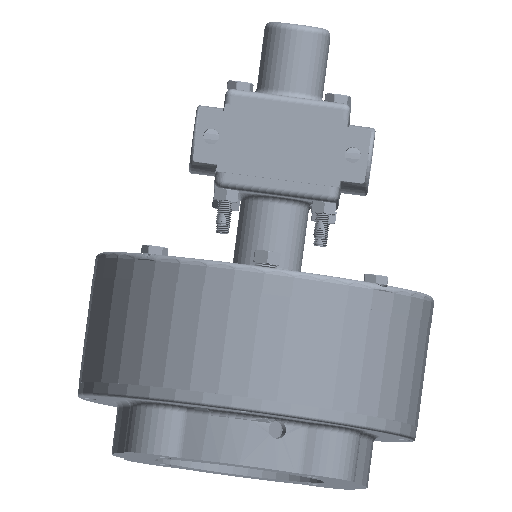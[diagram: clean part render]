
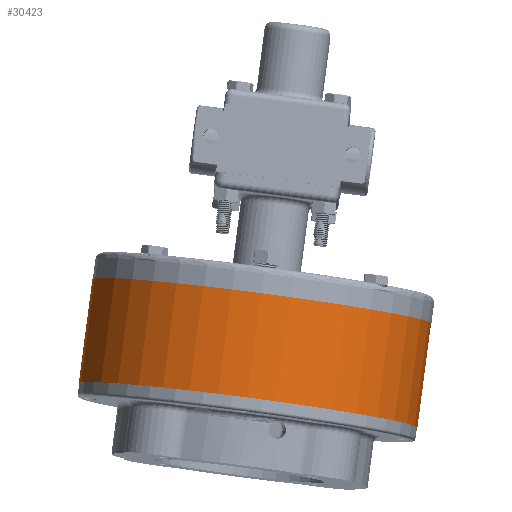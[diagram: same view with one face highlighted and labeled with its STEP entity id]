
A CAD part, front view. The second image highlights one B-rep face of the part: STEP entity #30423.
In plain terms, the highlighted cylindrical face has radius 79.756 mm (diameter 159.512 mm), a partial arc.
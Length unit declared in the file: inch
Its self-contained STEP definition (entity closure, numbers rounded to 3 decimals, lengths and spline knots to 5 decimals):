
#4840 = VERTEX_POINT ( 'NONE', #7006 ) ;
#6188 = LINE ( 'NONE', #120921, #103936 ) ;
#7006 = CARTESIAN_POINT ( 'NONE',  ( -3.74843, 99.73732, 31.3707 ) ) ;
#8975 = DIRECTION ( 'NONE',  ( 0.992, -0.01, -0.129 ) ) ;
#14258 = DIRECTION ( 'NONE',  ( -0.13, -0.046, -0.99 ) ) ;
#21014 = EDGE_CURVE ( 'NONE', #146016, #138825, #95266, .T. ) ;
#30423 = ADVANCED_FACE ( 'NONE', ( #39624 ), #131733, .T. ) ;
#37708 = DIRECTION ( 'NONE',  ( 0.13, 0.046, 0.99 ) ) ;
#39624 = FACE_OUTER_BOUND ( 'NONE', #109649, .T. ) ;
#42548 = VECTOR ( 'NONE', #14258, 39.37008 ) ;
#55763 = DIRECTION ( 'NONE',  ( 0.13, 0.046, 0.99 ) ) ;
#56152 = CARTESIAN_POINT ( 'NONE',  ( -3.99981, 99.64792, 29.45216 ) ) ;
#59074 = AXIS2_PLACEMENT_3D ( 'NONE', #87490, #55763, #8975 ) ;
#60749 = DIRECTION ( 'NONE',  ( -0.992, 0.01, 0.129 ) ) ;
#61520 = DIRECTION ( 'NONE',  ( -0.13, -0.046, -0.99 ) ) ;
#76030 = CARTESIAN_POINT ( 'NONE',  ( 2.47841, 99.6739, 30.55779 ) ) ;
#78758 = ORIENTED_EDGE ( 'NONE', *, *, #90423, .T. ) ;
#80772 = CARTESIAN_POINT ( 'NONE',  ( -0.63501, 99.70561, 30.96424 ) ) ;
#87490 = CARTESIAN_POINT ( 'NONE',  ( -0.88639, 99.61621, 29.04571 ) ) ;
#90423 = EDGE_CURVE ( 'NONE', #4840, #146016, #6188, .T. ) ;
#92112 = EDGE_CURVE ( 'NONE', #4840, #145649, #116310, .T. ) ;
#94543 = AXIS2_PLACEMENT_3D ( 'NONE', #80772, #37708, #106326 ) ;
#95266 = CIRCLE ( 'NONE', #59074, 3.14 ) ;
#98141 = ORIENTED_EDGE ( 'NONE', *, *, #92112, .F. ) ;
#98523 = ORIENTED_EDGE ( 'NONE', *, *, #21014, .T. ) ;
#102136 = AXIS2_PLACEMENT_3D ( 'NONE', #118111, #61520, #60749 ) ;
#103936 = VECTOR ( 'NONE', #142075, 39.37008 ) ;
#106326 = DIRECTION ( 'NONE',  ( 0.992, -0.01, -0.129 ) ) ;
#109649 = EDGE_LOOP ( 'NONE', ( #126195, #98141, #78758, #98523 ) ) ;
#116310 = CIRCLE ( 'NONE', #94543, 3.14 ) ;
#117686 = CARTESIAN_POINT ( 'NONE',  ( 2.47841, 99.6739, 30.55779 ) ) ;
#118111 = CARTESIAN_POINT ( 'NONE',  ( -0.63501, 99.70561, 30.96424 ) ) ;
#120921 = CARTESIAN_POINT ( 'NONE',  ( -3.74843, 99.73732, 31.3707 ) ) ;
#126195 = ORIENTED_EDGE ( 'NONE', *, *, #148603, .F. ) ;
#129020 = LINE ( 'NONE', #117686, #42548 ) ;
#131733 = CYLINDRICAL_SURFACE ( 'NONE', #102136, 3.14 ) ;
#132325 = CARTESIAN_POINT ( 'NONE',  ( 2.22703, 99.5845, 28.63925 ) ) ;
#138825 = VERTEX_POINT ( 'NONE', #132325 ) ;
#142075 = DIRECTION ( 'NONE',  ( -0.13, -0.046, -0.99 ) ) ;
#145649 = VERTEX_POINT ( 'NONE', #76030 ) ;
#146016 = VERTEX_POINT ( 'NONE', #56152 ) ;
#148603 = EDGE_CURVE ( 'NONE', #145649, #138825, #129020, .T. ) ;
